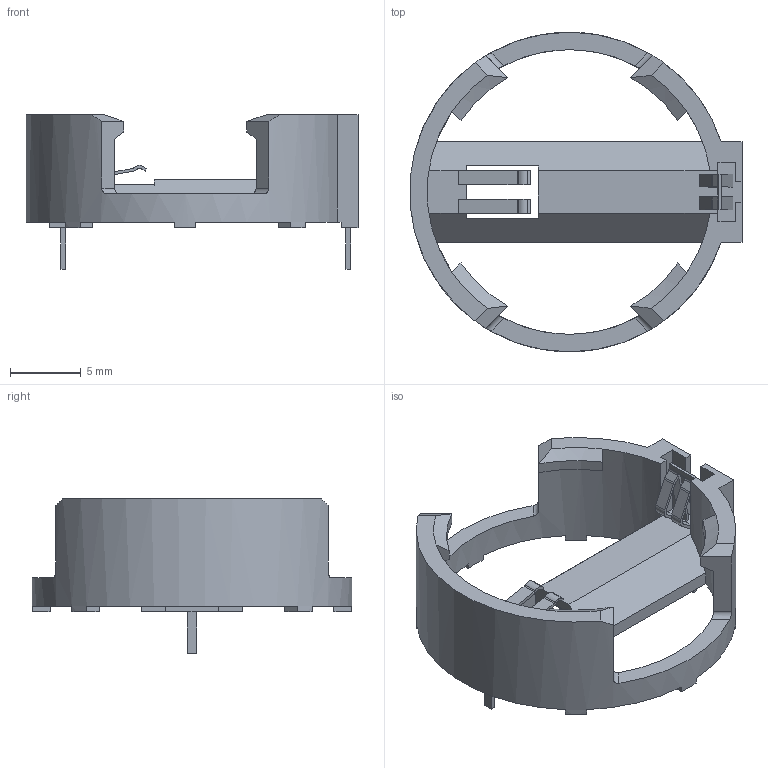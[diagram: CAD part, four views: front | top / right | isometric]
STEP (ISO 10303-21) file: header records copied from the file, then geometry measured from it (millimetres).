
FILE_DESCRIPTION(/* description */ ('CR2032 Battery Holder'),/* implementation_level */ '2;1');
FILE_NAME(/* name */ 'CR2032 battery holder',/* time_stamp */ '2020-04-10T13:25:43+02:00',/* author */ ('Cristobal'),/* organization */ ('Unknown'),/* preprocessor_version */ 'ST-DEVELOPER v16',/* originating_system */ 'DEX',/* authorisation */ $);
FILE_SCHEMA (('AUTOMOTIVE_DESIGN {1 0 10303 214 3 1 1}'));
Length unit declared in the file: millimetre
Products named in the file (1): CR2032 battery holder
Bounding box: 23.46 x 22.6 x 10.95 mm (x, y, z)
Volume: 718.9 mm3; surface area: 1509.5 mm2
Topology: 1 solids, 1 shells, 177 faces, 514 edges, 338 vertices
Faces by surface type: plane 137, cylinder 32, cone 8
Entity records: 7343 total; most frequent: CARTESIAN_POINT 1338, ORIENTED_EDGE 1028, DIRECTION 954, EDGE_CURVE 514, LINE 382, VECTOR 382, VERTEX_POINT 338, AXIS2_PLACEMENT_3D 286
